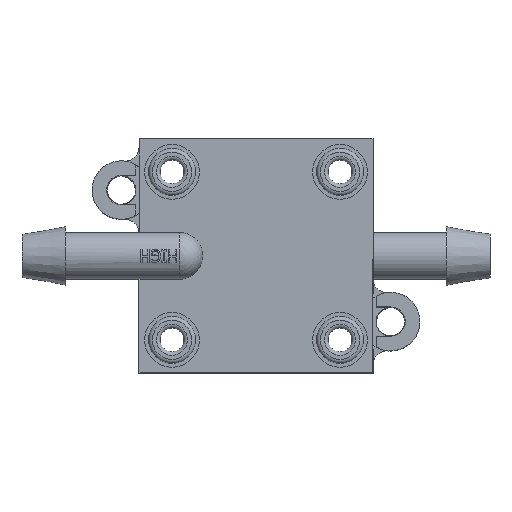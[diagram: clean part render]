
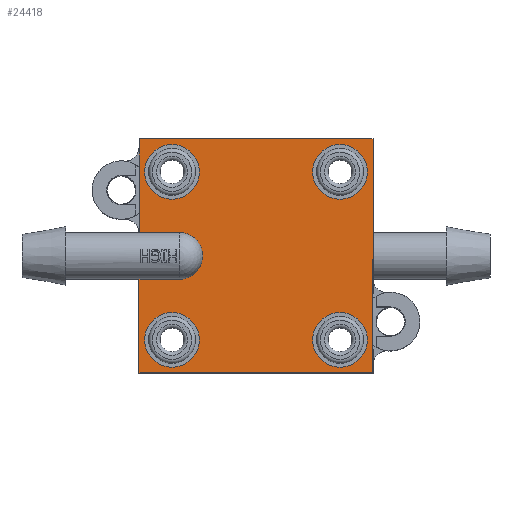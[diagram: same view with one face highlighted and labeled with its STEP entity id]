
A CAD part, top view. The second image highlights one B-rep face of the part: STEP entity #24418.
In plain terms, the highlighted planar face has unit normal (0, 0, 1).
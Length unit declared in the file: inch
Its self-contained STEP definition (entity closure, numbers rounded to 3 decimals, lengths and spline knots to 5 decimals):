
#24178=CARTESIAN_POINT('',(0.328,0.1,0.0));
#24179=VERTEX_POINT('',#24178);
#24180=CARTESIAN_POINT('',(0.328,-0.1,0.0));
#24181=VERTEX_POINT('',#24180);
#24182=CARTESIAN_POINT('',(0.328,0.0,0.0));
#24183=DIRECTION('',(0.0,0.0,-1.0));
#24184=DIRECTION('',(0.0,1.0,0.0));
#24185=AXIS2_PLACEMENT_3D('',#24182,#24183,#24184);
#24186=CIRCLE('',#24185,0.1);
#24187=EDGE_CURVE('',#24179,#24181,#24186,.F.);
#24290=CARTESIAN_POINT('',(0.5,-0.1,0.0));
#24291=VERTEX_POINT('',#24290);
#24292=CARTESIAN_POINT('',(0.5,-0.1,0.0));
#24293=DIRECTION('',(-1.0,0.0,0.0));
#24294=VECTOR('',#24293,0.172);
#24295=LINE('',#24292,#24294);
#24296=EDGE_CURVE('',#24291,#24181,#24295,.T.);
#24307=CARTESIAN_POINT('',(0.5,0.1,0.0));
#24308=VERTEX_POINT('',#24307);
#24316=CARTESIAN_POINT('',(0.328,0.1,0.0));
#24317=DIRECTION('',(1.0,0.0,0.0));
#24318=VECTOR('',#24317,0.172);
#24319=LINE('',#24316,#24318);
#24320=EDGE_CURVE('',#24179,#24308,#24319,.T.);
#24326=CARTESIAN_POINT('',(0.,0.,0.0));
#24327=DIRECTION('',(0.0,0.0,1.0));
#24328=DIRECTION('',(1.0,0.0,0.0));
#24329=AXIS2_PLACEMENT_3D('',#24326,#24327,#24328);
#24330=PLANE('',#24329);
#24331=ORIENTED_EDGE('',*,*,#24296,.T.);
#24332=ORIENTED_EDGE('',*,*,#24187,.F.);
#24333=ORIENTED_EDGE('',*,*,#24320,.T.);
#24334=CARTESIAN_POINT('',(0.5,0.5,0.0));
#24335=VERTEX_POINT('',#24334);
#24336=CARTESIAN_POINT('',(0.5,0.5,0.0));
#24337=DIRECTION('',(0.0,-1.0,0.0));
#24338=VECTOR('',#24337,0.4);
#24339=LINE('',#24336,#24338);
#24340=EDGE_CURVE('',#24335,#24308,#24339,.T.);
#24341=ORIENTED_EDGE('',*,*,#24340,.F.);
#24342=CARTESIAN_POINT('',(-0.5,0.5,0.0));
#24343=VERTEX_POINT('',#24342);
#24344=CARTESIAN_POINT('',(-0.5,0.5,0.0));
#24345=DIRECTION('',(1.0,0.0,0.0));
#24346=VECTOR('',#24345,1.);
#24347=LINE('',#24344,#24346);
#24348=EDGE_CURVE('',#24343,#24335,#24347,.T.);
#24349=ORIENTED_EDGE('',*,*,#24348,.F.);
#24350=CARTESIAN_POINT('',(-0.5,-0.5,0.0));
#24351=VERTEX_POINT('',#24350);
#24352=CARTESIAN_POINT('',(-0.5,-0.5,0.0));
#24353=DIRECTION('',(0.0,1.0,0.0));
#24354=VECTOR('',#24353,1.0);
#24355=LINE('',#24352,#24354);
#24356=EDGE_CURVE('',#24351,#24343,#24355,.T.);
#24357=ORIENTED_EDGE('',*,*,#24356,.F.);
#24358=CARTESIAN_POINT('',(0.5,-0.5,0.0));
#24359=VERTEX_POINT('',#24358);
#24360=CARTESIAN_POINT('',(0.5,-0.5,0.0));
#24361=DIRECTION('',(-1.0,0.0,0.0));
#24362=VECTOR('',#24361,1.);
#24363=LINE('',#24360,#24362);
#24364=EDGE_CURVE('',#24359,#24351,#24363,.T.);
#24365=ORIENTED_EDGE('',*,*,#24364,.F.);
#24366=CARTESIAN_POINT('',(0.5,-0.1,0.0));
#24367=DIRECTION('',(0.0,-1.0,0.0));
#24368=VECTOR('',#24367,0.4);
#24369=LINE('',#24366,#24368);
#24370=EDGE_CURVE('',#24291,#24359,#24369,.T.);
#24371=ORIENTED_EDGE('',*,*,#24370,.F.);
#24372=EDGE_LOOP('',(#24331,#24332,#24333,#24341,#24349,#24357,#24365,#24371));
#24373=FACE_OUTER_BOUND('',#24372,.T.);
#24374=CARTESIAN_POINT('',(-0.242,0.359,0.0));
#24375=VERTEX_POINT('',#24374);
#24376=CARTESIAN_POINT('',(-0.359,0.359,0.0));
#24377=DIRECTION('',(0.0,0.0,-1.0));
#24378=DIRECTION('',(1.0,0.0,0.0));
#24379=AXIS2_PLACEMENT_3D('',#24376,#24377,#24378);
#24380=CIRCLE('',#24379,0.117);
#24381=EDGE_CURVE('',#24375,#24375,#24380,.T.);
#24382=ORIENTED_EDGE('',*,*,#24381,.T.);
#24383=EDGE_LOOP('',(#24382));
#24384=FACE_BOUND('',#24383,.T.);
#24385=CARTESIAN_POINT('',(0.476,0.359,0.0));
#24386=VERTEX_POINT('',#24385);
#24387=CARTESIAN_POINT('',(0.359,0.359,0.0));
#24388=DIRECTION('',(0.0,0.0,-1.0));
#24389=DIRECTION('',(1.0,0.0,0.0));
#24390=AXIS2_PLACEMENT_3D('',#24387,#24388,#24389);
#24391=CIRCLE('',#24390,0.117);
#24392=EDGE_CURVE('',#24386,#24386,#24391,.T.);
#24393=ORIENTED_EDGE('',*,*,#24392,.T.);
#24394=EDGE_LOOP('',(#24393));
#24395=FACE_BOUND('',#24394,.T.);
#24396=CARTESIAN_POINT('',(0.476,-0.359,0.0));
#24397=VERTEX_POINT('',#24396);
#24398=CARTESIAN_POINT('',(0.359,-0.359,0.0));
#24399=DIRECTION('',(0.0,0.0,-1.0));
#24400=DIRECTION('',(1.0,0.0,0.0));
#24401=AXIS2_PLACEMENT_3D('',#24398,#24399,#24400);
#24402=CIRCLE('',#24401,0.117);
#24403=EDGE_CURVE('',#24397,#24397,#24402,.T.);
#24404=ORIENTED_EDGE('',*,*,#24403,.T.);
#24405=EDGE_LOOP('',(#24404));
#24406=FACE_BOUND('',#24405,.T.);
#24407=CARTESIAN_POINT('',(-0.242,-0.359,0.0));
#24408=VERTEX_POINT('',#24407);
#24409=CARTESIAN_POINT('',(-0.359,-0.359,0.0));
#24410=DIRECTION('',(0.0,0.0,-1.0));
#24411=DIRECTION('',(1.0,0.0,0.0));
#24412=AXIS2_PLACEMENT_3D('',#24409,#24410,#24411);
#24413=CIRCLE('',#24412,0.117);
#24414=EDGE_CURVE('',#24408,#24408,#24413,.T.);
#24415=ORIENTED_EDGE('',*,*,#24414,.T.);
#24416=EDGE_LOOP('',(#24415));
#24417=FACE_BOUND('',#24416,.T.);
#24418=ADVANCED_FACE('',(#24373,#24384,#24395,#24406,#24417),#24330,.T.);
